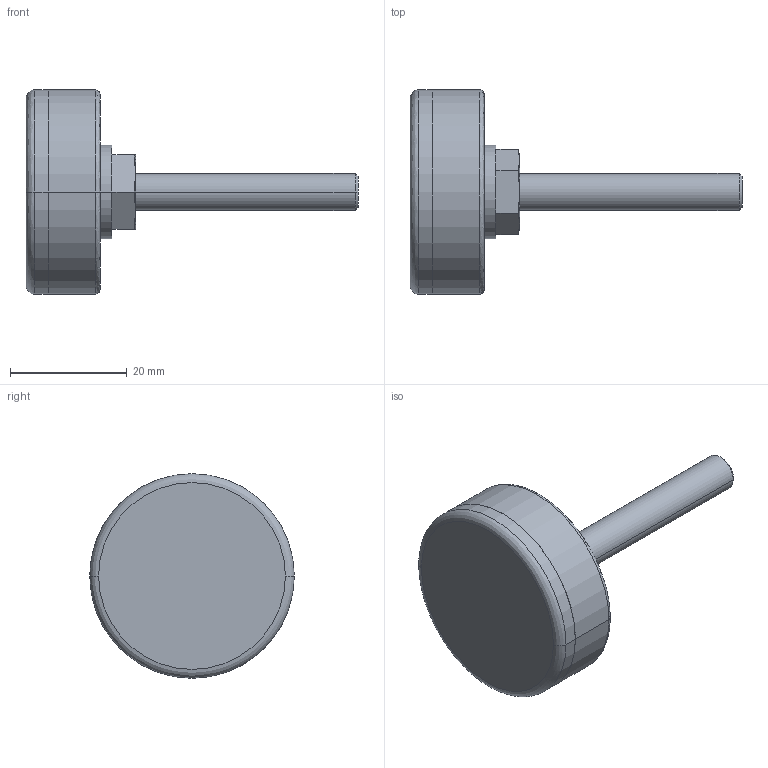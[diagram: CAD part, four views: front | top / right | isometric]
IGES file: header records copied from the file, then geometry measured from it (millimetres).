
Start section:  PTC IGES file: fsn300s-part.igs
Global section: file name: fsn300s-part.igs; native system: Pro/ENGINEER by Parametric Technology Corporation; preprocessor: 2002350; author: chant; organization: Unknown; date: 070618.101607; units: inch
Bounding box: 56.9 x 35.05 x 35.05 mm (x, y, z)
Surface area: 4414.4 mm2 (no closed solid volume)
Topology: 0 solids, 0 shells, 35 faces, 203 edges, 249 vertices
Faces by surface type: revolution 22, bspline 13
